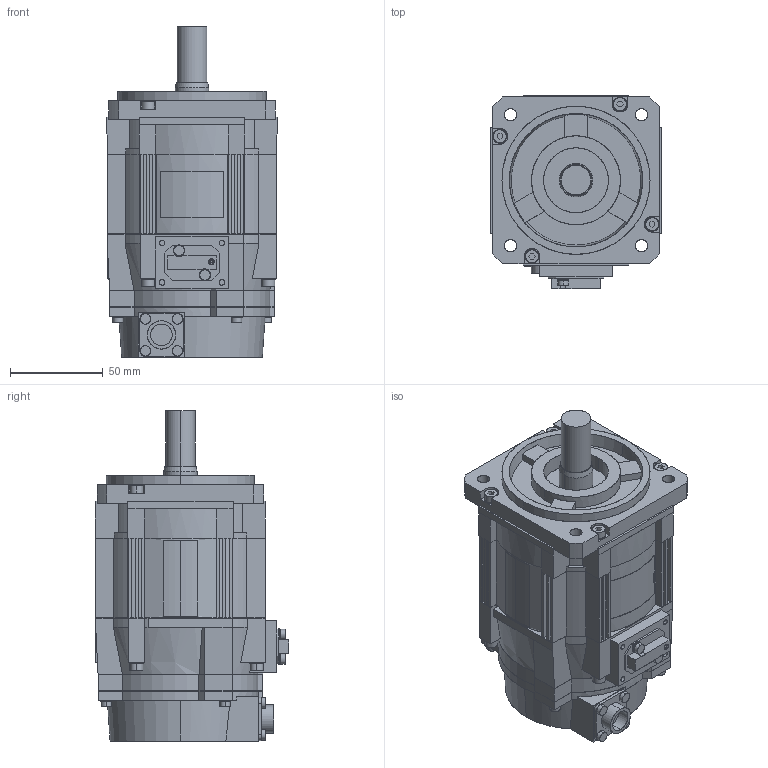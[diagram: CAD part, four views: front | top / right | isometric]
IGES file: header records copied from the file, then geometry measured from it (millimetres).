
Start section: SolidWorks IGES file using analytic representation for surfaces
Global section: file name: D:\YASKAWA\sgm7g_05__a21.IGS; native system: SolidWorks 2006 by SolidWorks Corporation; preprocessor: SolidWorks 2006 by SolidWorks Corporation; author: yamanouchi; date: 140507.140638; units: millimetre
Bounding box: 92 x 104.5 x 178.6 mm (x, y, z)
Surface area: 86852.3 mm2 (no closed solid volume)
Topology: 0 solids, 0 shells, 621 faces, 7425 edges, 7425 vertices
Faces by surface type: bspline 433, revolution 188
